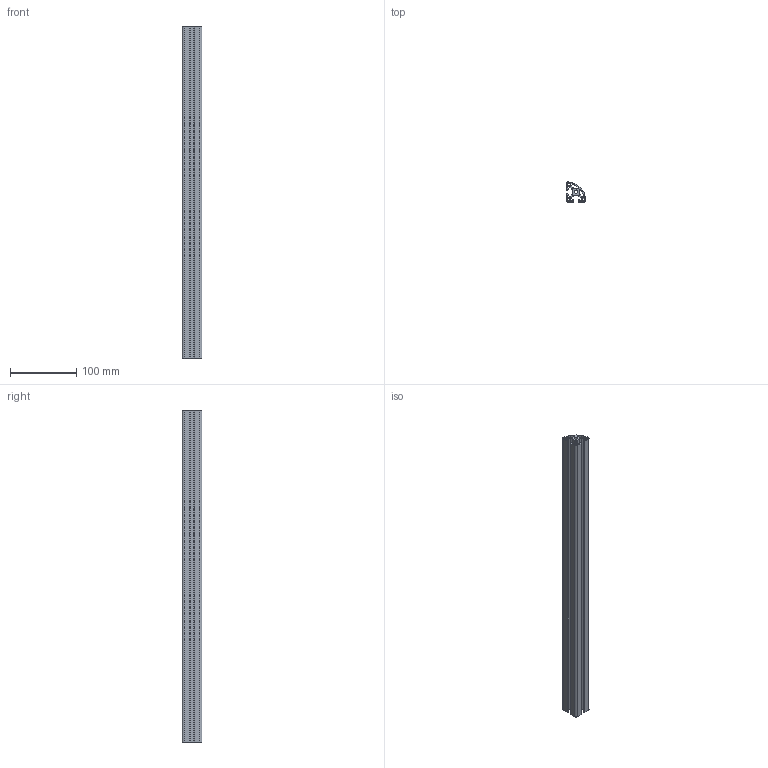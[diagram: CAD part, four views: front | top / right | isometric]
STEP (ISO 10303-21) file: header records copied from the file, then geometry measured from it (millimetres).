
FILE_DESCRIPTION (( 'STEP AP203' ), '1' );
FILE_NAME ('PP3160-500-Rollco.step', '2026-05-04T07:41:17', ( '' ), ( '' ), 'SwSTEP 2.0', 'SolidWorks 2014', '' );
FILE_SCHEMA (( 'CONFIG_CONTROL_DESIGN' ));
Length unit declared in the file: millimetre
Products named in the file (1): PP3160-500-Rollco
Bounding box: 29.83 x 29.83 x 500 mm (x, y, z)
Volume: 154608 mm3; surface area: 148231.9 mm2
Topology: 1 solids, 1 shells, 110 faces, 324 edges, 216 vertices
Faces by surface type: cylinder 60, plane 50
Entity records: 3809 total; most frequent: DIRECTION 666, CARTESIAN_POINT 651, ORIENTED_EDGE 648, EDGE_CURVE 324, AXIS2_PLACEMENT_3D 231, VERTEX_POINT 216, LINE 204, VECTOR 204
